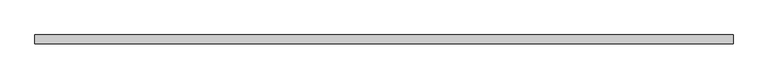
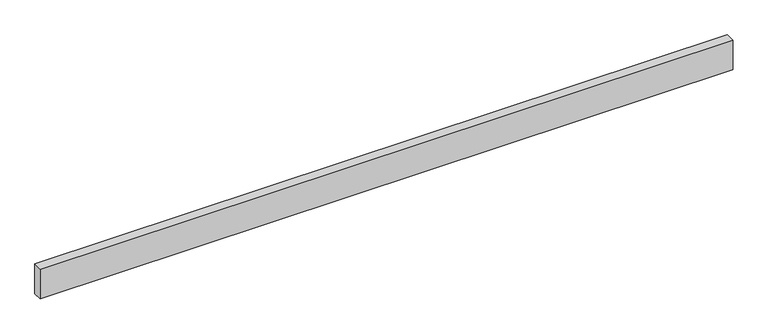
"""IFC4 building model written with IfcOpenShell, lengths in millimetres: furniture geometry, Frontispício : Frontispício."""

import ifcopenshell
import ifcopenshell.guid

model = None  # the IFC model being written
_history = None  # IfcOwnerHistory: only IFC2X3 demands one
_inside = {}  # id of a spatial element -> (the spatial element, [elements in it])
_under = {}  # id of a project, library or spatial element -> (it, [spatial elements below it])
_declared = {}  # id of a project -> (the project, [libraries it declares])
_typed = {}  # id of a type object -> (the type object, [elements of that type])
_made_of = {}  # id of a material, layer set ... -> (it, [elements and type objects made of it])


def new_model(schema):
    """Start an empty IFC model of exactly this schema.

    Asked for "IFC4X3", IfcOpenShell would pick the latest addendum, in which some entities
    have other attributes; the version numbers below select the first issue.
    IFC2X3 requires an IfcOwnerHistory on every rooted entity: one is made here for all.
    """
    global model, _history
    if schema == "IFC4X3":
        model = ifcopenshell.file(schema_version=(4, 3, 0, 0))
    else:
        model = ifcopenshell.file(schema=schema)
    _inside.clear()
    _under.clear()
    _declared.clear()
    _typed.clear()
    _made_of.clear()
    _history = None
    if model.schema == "IFC2X3":
        org = make("IfcOrganization", Name="unknown")
        user = make(
            "IfcPersonAndOrganization",
            ThePerson=make("IfcPerson", FamilyName="unknown"),
            TheOrganization=org,
        )
        app = make(
            "IfcApplication",
            ApplicationDeveloper=org,
            Version="unknown",
            ApplicationFullName="unknown",
            ApplicationIdentifier="unknown",
        )
        _history = make(
            "IfcOwnerHistory",
            OwningUser=user,
            OwningApplication=app,
            ChangeAction="ADDED",
            CreationDate=0,
        )
    return model


def make(cls, **values):
    """One entity of the class cls with the attributes given. An attribute that is None is left unset."""
    return model.create_entity(
        cls, **{name: value for name, value in values.items() if value is not None}
    )


def rooted(cls, **values):
    """An entity with a GlobalId (a new one), such as an element, a storey or a relation."""
    return make(cls, GlobalId=ifcopenshell.guid.new(), OwnerHistory=_history, **values)


def si_unit(unit_type, name, prefix=None):
    """IfcSIUnit, for example si_unit("LENGTHUNIT", "METRE", prefix="MILLI")."""
    return make("IfcSIUnit", UnitType=unit_type, Prefix=prefix, Name=name)


def assignment(units):
    """IfcUnitAssignment: the units of a project."""
    return None if units is None else make("IfcUnitAssignment", Units=units)


def point(xyz):
    """IfcCartesianPoint."""
    return None if xyz is None else make("IfcCartesianPoint", Coordinates=xyz)


def direction(xyz):
    """IfcDirection."""
    return None if xyz is None else make("IfcDirection", DirectionRatios=xyz)


def frame(location, z_axis=None, x_axis=None):
    """IfcAxis2Placement3D, a coordinate frame: its origin and axes. An axis left out is left unset."""
    return make(
        "IfcAxis2Placement3D",
        Location=point(location),
        Axis=direction(z_axis),
        RefDirection=direction(x_axis),
    )


def origin():
    """The frame at (0, 0, 0) with its axes left unset."""
    return frame((0.0, 0.0, 0.0))


def origin_with_axes():
    """The frame at (0, 0, 0) with the z axis (0, 0, 1) and the x axis (1, 0, 0) written out."""
    return frame((0.0, 0.0, 0.0), z_axis=(0.0, 0.0, 1.0), x_axis=(1.0, 0.0, 0.0))


def place(relative_to, where):
    """IfcLocalPlacement: puts the frame where relative to a parent placement (None: the world)."""
    return make(
        "IfcLocalPlacement", PlacementRelTo=relative_to, RelativePlacement=where
    )


def context(
    kind, dimensions, precision=None, world=None, true_north=None, identifier=None
):
    """IfcGeometricRepresentationContext, for example the 3D "Model" context."""
    return make(
        "IfcGeometricRepresentationContext",
        ContextIdentifier=identifier,
        ContextType=kind,
        CoordinateSpaceDimension=dimensions,
        Precision=precision,
        WorldCoordinateSystem=world,
        TrueNorth=true_north,
    )


def project(units=None, contexts=None):
    """IfcProject with its units and contexts."""
    return rooted(
        "IfcProject",
        Name="project",
        RepresentationContexts=contexts,
        UnitsInContext=assignment(units),
    )


def spatial(cls, under=None, at=None, **own):
    """A site, building, storey or space (cls), placed at a placement, below another one or the project."""
    s = rooted(cls, ObjectPlacement=at, **own)
    if under is not None:
        _under.setdefault(under.id(), (under, []))[1].append(s)
    return s


def polyline(points):
    """IfcPolyline through the points."""
    return make("IfcPolyline", Points=[point(p) for p in points])


def outline(outer, holes=None, kind="AREA"):
    """IfcArbitraryClosedProfileDef: a profile drawn as a closed curve; with holes, ...WithVoids."""
    if holes is None:
        return make("IfcArbitraryClosedProfileDef", ProfileType=kind, OuterCurve=outer)
    return make(
        "IfcArbitraryProfileDefWithVoids",
        ProfileType=kind,
        OuterCurve=outer,
        InnerCurves=holes,
    )


def extrude(swept, where, along, depth):
    """IfcExtrudedAreaSolid: the profile swept, set in the frame where, extruded along a direction by depth."""
    return make(
        "IfcExtrudedAreaSolid",
        SweptArea=swept,
        Position=where,
        ExtrudedDirection=direction(along),
        Depth=depth,
    )


def shape(context_of_items, identifier, shape_type, items):
    """IfcShapeRepresentation: the items that make up one representation, for example the "Body"."""
    return make(
        "IfcShapeRepresentation",
        ContextOfItems=context_of_items,
        RepresentationIdentifier=identifier,
        RepresentationType=shape_type,
        Items=items,
    )


def source(mapping_origin, context_of_items, identifier, shape_type, items):
    """IfcRepresentationMap: a shape defined once, which mapped items show again and again."""
    return make(
        "IfcRepresentationMap",
        MappingOrigin=mapping_origin,
        MappedRepresentation=shape(context_of_items, identifier, shape_type, items),
    )


def transform(
    local_origin,
    x_axis=None,
    y_axis=None,
    z_axis=None,
    scale=None,
    scale2=None,
    scale3=None,
    uniform=True,
):
    """IfcCartesianTransformationOperator3D, or its non-uniform kind. x_axis, y_axis, z_axis: its Axis1, 2, 3."""
    if uniform:
        return make(
            "IfcCartesianTransformationOperator3D",
            Axis1=direction(x_axis),
            Axis2=direction(y_axis),
            LocalOrigin=point(local_origin),
            Scale=scale,
            Axis3=direction(z_axis),
        )
    return make(
        "IfcCartesianTransformationOperator3DnonUniform",
        Axis1=direction(x_axis),
        Axis2=direction(y_axis),
        LocalOrigin=point(local_origin),
        Scale=scale,
        Axis3=direction(z_axis),
        Scale2=scale2,
        Scale3=scale3,
    )


def mapped(mapping_source, mapping_target):
    """IfcMappedItem: shows the shape of a source again, moved by a transform."""
    return make(
        "IfcMappedItem", MappingSource=mapping_source, MappingTarget=mapping_target
    )


def made_of(thing, what):
    """Note that an element or type object is made of a material, layer set ...; save() writes the relation."""
    if what is not None:
        _made_of.setdefault(what.id(), (what, []))[1].append(thing)
    return thing


def element(
    cls,
    number,
    at=None,
    inside=None,
    cuts=None,
    type_object=None,
    material=None,
    context=None,
    identifier="Body",
    shape_type=None,
    held_by="IfcProductDefinitionShape",
    body=None,
    shapes=None,
    **own,
):
    """One element of the class cls, such as IfcWall. Its Tag is "e" and its number.

    at: its placement. inside: the storey or other place that contains it. cuts: it is an
    opening in that element (IfcRelVoidsElement). A single representation is given by context,
    identifier, shape_type and body (its items); several are given by shapes. held_by: the class
    of the entity that holds the representations. save() writes the other relations.
    """
    e = rooted(cls, Tag="e%d" % number, ObjectPlacement=at, **own)
    if body is not None:
        shapes = [shape(context, identifier, shape_type, body)]
    if shapes is not None:
        e.Representation = make(held_by, Representations=shapes)
    if inside is not None:
        _inside.setdefault(inside.id(), (inside, []))[1].append(e)
    if cuts is not None:
        rooted(
            "IfcRelVoidsElement", RelatingBuildingElement=cuts, RelatedOpeningElement=e
        )
    if type_object is not None:
        _typed.setdefault(type_object.id(), (type_object, []))[1].append(e)
    return made_of(e, material)


def aggregate(whole, parts):
    """IfcRelAggregates: a whole, such as a stair, and the parts it consists of."""
    return rooted("IfcRelAggregates", RelatingObject=whole, RelatedObjects=parts)


def save(model, path):
    """Write the relations noted so far, then the file.

    IfcRelAggregates (storeys below a building ...), IfcRelContainedInSpatialStructure (elements
    in a storey), IfcRelDefinesByType, IfcRelAssociatesMaterial and IfcRelDeclares: one each for
    every whole, place, type object, material and project.
    """
    for whole, parts in _under.values():
        aggregate(whole, parts)
    for where, things in _inside.values():
        rooted(
            "IfcRelContainedInSpatialStructure",
            RelatedElements=things,
            RelatingStructure=where,
        )
    for kind, things in _typed.values():
        rooted("IfcRelDefinesByType", RelatedObjects=things, RelatingType=kind)
    for what, things in _made_of.values():
        rooted("IfcRelAssociatesMaterial", RelatedObjects=things, RelatingMaterial=what)
    for by, libraries in _declared.values():
        rooted("IfcRelDeclares", RelatingContext=by, RelatedDefinitions=libraries)
    model.write(path)


def furniture_6f2fc743(model_context):
    return source(origin(), model_context, "Body", "SweptSolid", [
        extrude(outline(polyline([(173.677619, 0.0), (173.677619, -20.0), (-1376.322381, -20.0), (-1376.322381, 0.0), (173.677619, 0.0)])), origin_with_axes(), (0.0, 0.0, 1.0), 70.0),
    ])


if __name__ == "__main__":
    model = new_model("IFC4")
    model_context = context("Model", 3, world=origin())
    ifc_project = project(units=[si_unit("LENGTHUNIT", "METRE", prefix="MILLI")], contexts=[model_context])
    site = spatial("IfcSite", under=ifc_project)
    building = spatial("IfcBuilding", under=site)
    placement = place(None, origin())
    furniture_shape = furniture_6f2fc743(model_context)
    element("IfcFurniture", 1, ObjectType="Frontispício : Frontispício", at=placement, inside=building, context=model_context, shape_type="MappedRepresentation", body=[
        mapped(furniture_shape, transform((0.0, 0.0, 0.0), x_axis=(1.0, 0.0, 0.0), y_axis=(0.0, 1.0, 0.0), z_axis=(0.0, 0.0, 1.0))),
    ])
    save(model, "model.ifc")
